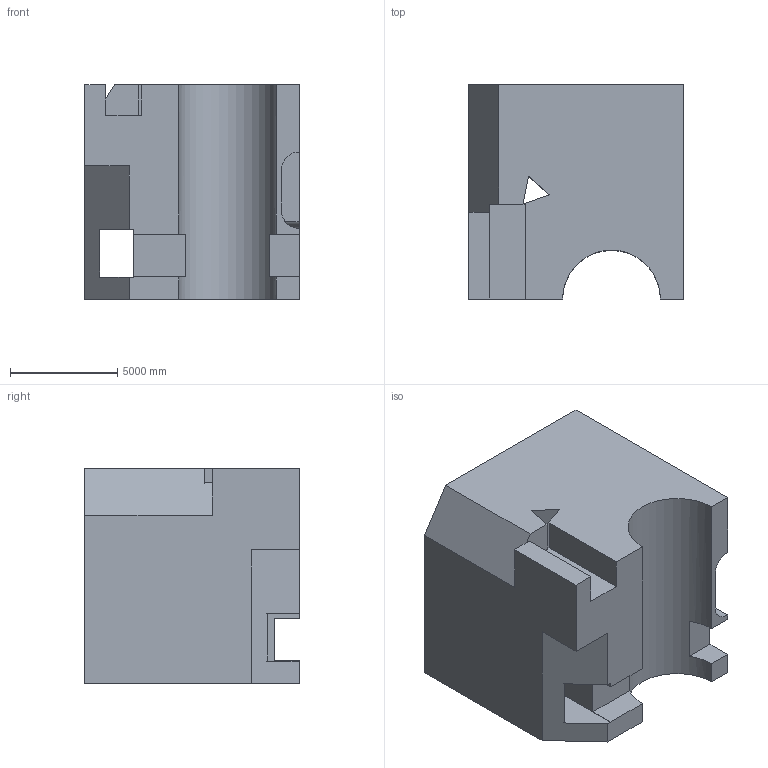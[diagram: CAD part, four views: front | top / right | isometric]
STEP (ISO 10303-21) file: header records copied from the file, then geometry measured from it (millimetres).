
FILE_DESCRIPTION (( 'STEP AP203' ), '1' );
FILE_NAME ('395.STEP', '2022-09-07T15:54:35', ( 'user' ), ( '' ), 'SwSTEP 2.0', 'SolidWorks 2021', '' );
FILE_SCHEMA (( 'CONFIG_CONTROL_DESIGN' ));
Length unit declared in the file: centimetre
Products named in the file (1): 395
Bounding box: 10000 x 10000 x 10000 mm (x, y, z)
Volume: 770904170610 mm3; surface area: 804260149.5 mm2
Topology: 1 solids, 1 shells, 46 faces, 132 edges, 88 vertices
Faces by surface type: plane 37, cylinder 9
Entity records: 1637 total; most frequent: CARTESIAN_POINT 322, ORIENTED_EDGE 264, DIRECTION 248, EDGE_CURVE 132, VECTOR 108, LINE 108, VERTEX_POINT 88, AXIS2_PLACEMENT_3D 70
